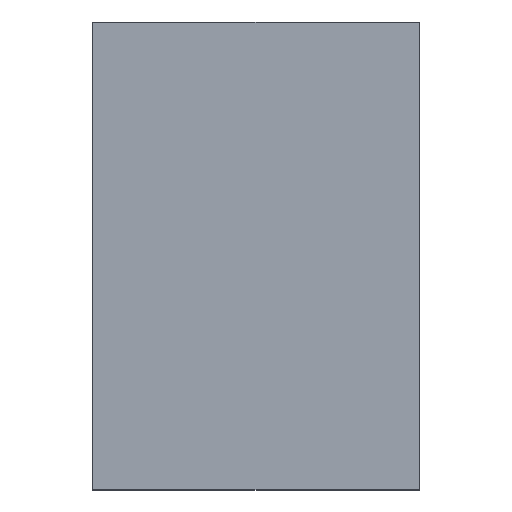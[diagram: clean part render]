
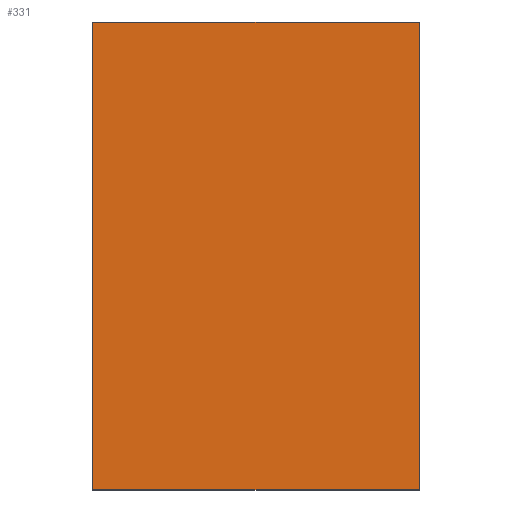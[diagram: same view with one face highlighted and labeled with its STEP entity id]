
A CAD part, top view. The second image highlights one B-rep face of the part: STEP entity #331.
In plain terms, the highlighted planar face has unit normal (0, 0, 1).
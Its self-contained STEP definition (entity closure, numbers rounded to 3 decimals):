
#22 = VERTEX_POINT('',#23);
#23 = CARTESIAN_POINT('',(-23.26,-44.94,-9.465));
#32 = PLANE('',#33);
#33 = AXIS2_PLACEMENT_3D('',#34,#35,#36);
#34 = CARTESIAN_POINT('',(-23.26,-44.94,-9.465));
#35 = DIRECTION('',(-1.,0.,0.));
#36 = DIRECTION('',(0.,0.,-1.));
#44 = PLANE('',#45);
#45 = AXIS2_PLACEMENT_3D('',#46,#47,#48);
#46 = CARTESIAN_POINT('',(-23.26,-44.94,-9.465));
#47 = DIRECTION('',(0.,1.,0.));
#48 = DIRECTION('',(0.,0.,-1.));
#56 = EDGE_CURVE('',#22,#57,#59,.T.);
#57 = VERTEX_POINT('',#58);
#58 = CARTESIAN_POINT('',(-23.26,-35.14,-9.465));
#59 = SURFACE_CURVE('',#60,(#64,#71),.PCURVE_S1.);
#60 = LINE('',#61,#62);
#61 = CARTESIAN_POINT('',(-23.26,-44.94,-9.465));
#62 = VECTOR('',#63,1.);
#63 = DIRECTION('',(0.,1.,0.));
#64 = PCURVE('',#32,#65);
#65 = DEFINITIONAL_REPRESENTATION('',(#66),#70);
#66 = LINE('',#67,#68);
#67 = CARTESIAN_POINT('',(0.,0.));
#68 = VECTOR('',#69,1.);
#69 = DIRECTION('',(0.,-1.));
#70 = ( GEOMETRIC_REPRESENTATION_CONTEXT(2) 
PARAMETRIC_REPRESENTATION_CONTEXT() REPRESENTATION_CONTEXT('2D SPACE',''
  ) );
#71 = PCURVE('',#72,#77);
#72 = PLANE('',#73);
#73 = AXIS2_PLACEMENT_3D('',#74,#75,#76);
#74 = CARTESIAN_POINT('',(-23.26,-44.94,-9.465));
#75 = DIRECTION('',(0.,0.,-1.));
#76 = DIRECTION('',(-1.,0.,0.));
#77 = DEFINITIONAL_REPRESENTATION('',(#78),#82);
#78 = LINE('',#79,#80);
#79 = CARTESIAN_POINT('',(0.,0.));
#80 = VECTOR('',#81,1.);
#81 = DIRECTION('',(0.,1.));
#82 = ( GEOMETRIC_REPRESENTATION_CONTEXT(2) 
PARAMETRIC_REPRESENTATION_CONTEXT() REPRESENTATION_CONTEXT('2D SPACE',''
  ) );
#100 = PLANE('',#101);
#101 = AXIS2_PLACEMENT_3D('',#102,#103,#104);
#102 = CARTESIAN_POINT('',(-23.26,-35.14,-9.465));
#103 = DIRECTION('',(0.,1.,0.));
#104 = DIRECTION('',(0.,0.,-1.));
#142 = VERTEX_POINT('',#143);
#143 = CARTESIAN_POINT('',(-30.11,-44.94,-9.465));
#152 = PLANE('',#153);
#153 = AXIS2_PLACEMENT_3D('',#154,#155,#156);
#154 = CARTESIAN_POINT('',(-30.11,-44.94,-9.465));
#155 = DIRECTION('',(-1.,0.,0.));
#156 = DIRECTION('',(0.,0.,-1.));
#171 = EDGE_CURVE('',#142,#172,#174,.T.);
#172 = VERTEX_POINT('',#173);
#173 = CARTESIAN_POINT('',(-30.11,-35.14,-9.465));
#174 = SURFACE_CURVE('',#175,(#179,#186),.PCURVE_S1.);
#175 = LINE('',#176,#177);
#176 = CARTESIAN_POINT('',(-30.11,-44.94,-9.465));
#177 = VECTOR('',#178,1.);
#178 = DIRECTION('',(0.,1.,0.));
#179 = PCURVE('',#152,#180);
#180 = DEFINITIONAL_REPRESENTATION('',(#181),#185);
#181 = LINE('',#182,#183);
#182 = CARTESIAN_POINT('',(0.,0.));
#183 = VECTOR('',#184,1.);
#184 = DIRECTION('',(0.,-1.));
#185 = ( GEOMETRIC_REPRESENTATION_CONTEXT(2) 
PARAMETRIC_REPRESENTATION_CONTEXT() REPRESENTATION_CONTEXT('2D SPACE',''
  ) );
#186 = PCURVE('',#72,#187);
#187 = DEFINITIONAL_REPRESENTATION('',(#188),#192);
#188 = LINE('',#189,#190);
#189 = CARTESIAN_POINT('',(6.85,0.));
#190 = VECTOR('',#191,1.);
#191 = DIRECTION('',(0.,1.));
#192 = ( GEOMETRIC_REPRESENTATION_CONTEXT(2) 
PARAMETRIC_REPRESENTATION_CONTEXT() REPRESENTATION_CONTEXT('2D SPACE',''
  ) );
#241 = EDGE_CURVE('',#22,#142,#242,.T.);
#242 = SURFACE_CURVE('',#243,(#247,#254),.PCURVE_S1.);
#243 = LINE('',#244,#245);
#244 = CARTESIAN_POINT('',(-23.26,-44.94,-9.465));
#245 = VECTOR('',#246,1.);
#246 = DIRECTION('',(-1.,0.,0.));
#247 = PCURVE('',#44,#248);
#248 = DEFINITIONAL_REPRESENTATION('',(#249),#253);
#249 = LINE('',#250,#251);
#250 = CARTESIAN_POINT('',(0.,0.));
#251 = VECTOR('',#252,1.);
#252 = DIRECTION('',(0.,1.));
#253 = ( GEOMETRIC_REPRESENTATION_CONTEXT(2) 
PARAMETRIC_REPRESENTATION_CONTEXT() REPRESENTATION_CONTEXT('2D SPACE',''
  ) );
#254 = PCURVE('',#72,#255);
#255 = DEFINITIONAL_REPRESENTATION('',(#256),#260);
#256 = LINE('',#257,#258);
#257 = CARTESIAN_POINT('',(0.,0.));
#258 = VECTOR('',#259,1.);
#259 = DIRECTION('',(1.,0.));
#260 = ( GEOMETRIC_REPRESENTATION_CONTEXT(2) 
PARAMETRIC_REPRESENTATION_CONTEXT() REPRESENTATION_CONTEXT('2D SPACE',''
  ) );
#288 = EDGE_CURVE('',#57,#172,#289,.T.);
#289 = SURFACE_CURVE('',#290,(#294,#301),.PCURVE_S1.);
#290 = LINE('',#291,#292);
#291 = CARTESIAN_POINT('',(-23.26,-35.14,-9.465));
#292 = VECTOR('',#293,1.);
#293 = DIRECTION('',(-1.,0.,0.));
#294 = PCURVE('',#100,#295);
#295 = DEFINITIONAL_REPRESENTATION('',(#296),#300);
#296 = LINE('',#297,#298);
#297 = CARTESIAN_POINT('',(0.,0.));
#298 = VECTOR('',#299,1.);
#299 = DIRECTION('',(0.,1.));
#300 = ( GEOMETRIC_REPRESENTATION_CONTEXT(2) 
PARAMETRIC_REPRESENTATION_CONTEXT() REPRESENTATION_CONTEXT('2D SPACE',''
  ) );
#301 = PCURVE('',#72,#302);
#302 = DEFINITIONAL_REPRESENTATION('',(#303),#307);
#303 = LINE('',#304,#305);
#304 = CARTESIAN_POINT('',(0.,9.8));
#305 = VECTOR('',#306,1.);
#306 = DIRECTION('',(1.,0.));
#307 = ( GEOMETRIC_REPRESENTATION_CONTEXT(2) 
PARAMETRIC_REPRESENTATION_CONTEXT() REPRESENTATION_CONTEXT('2D SPACE',''
  ) );
#331 = ADVANCED_FACE('',(#332),#72,.F.);
#332 = FACE_BOUND('',#333,.F.);
#333 = EDGE_LOOP('',(#334,#335,#336,#337));
#334 = ORIENTED_EDGE('',*,*,#56,.F.);
#335 = ORIENTED_EDGE('',*,*,#241,.T.);
#336 = ORIENTED_EDGE('',*,*,#171,.T.);
#337 = ORIENTED_EDGE('',*,*,#288,.F.);
